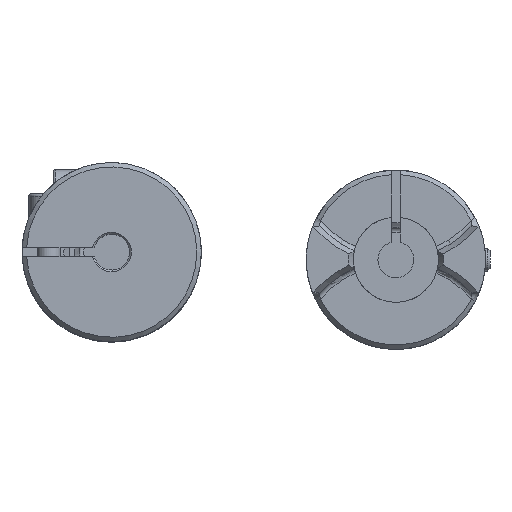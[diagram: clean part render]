
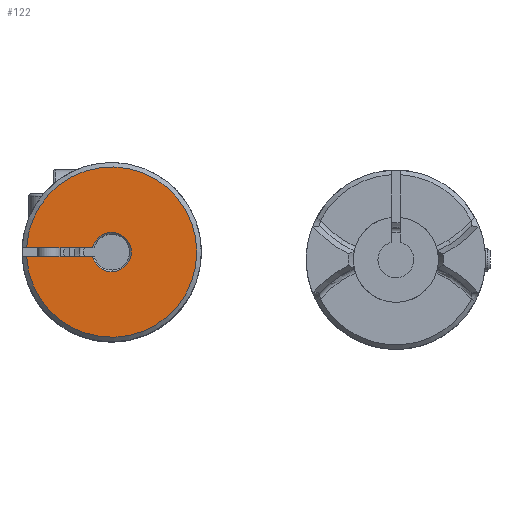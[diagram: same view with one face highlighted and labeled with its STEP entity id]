
A CAD part, top view. The second image highlights one B-rep face of the part: STEP entity #122.
In plain terms, the highlighted planar face has unit normal (0, 0, 1) as drawn and (0, 0, -1) by its records, which use the part's own axes.
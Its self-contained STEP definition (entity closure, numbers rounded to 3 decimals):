
#122 = ADVANCED_FACE( 'NONE', ( #256 ), #257, .F. );
#256 = FACE_OUTER_BOUND( '', #417, .T. );
#257 = PLANE( '', #418 );
#417 = EDGE_LOOP( '', ( #887, #888, #889, #890 ) );
#418 = AXIS2_PLACEMENT_3D( '', #891, #892, #893 );
#887 = ORIENTED_EDGE( '', *, *, #1330, .F. );
#888 = ORIENTED_EDGE( '', *, *, #1316, .T. );
#889 = ORIENTED_EDGE( '', *, *, #1369, .T. );
#890 = ORIENTED_EDGE( '', *, *, #1370, .T. );
#891 = CARTESIAN_POINT( '', ( 0., 0., 0. ) );
#892 = DIRECTION( '', ( 0., 0., 1. ) );
#893 = DIRECTION( '', ( 1., 0., 0. ) );
#1316 = EDGE_CURVE( 'NONE', #1651, #1652, #1653, .T. );
#1330 = EDGE_CURVE( 'NONE', #1651, #1676, #1677, .F. );
#1369 = EDGE_CURVE( 'NONE', #1652, #1740, #1741, .T. );
#1370 = EDGE_CURVE( 'NONE', #1740, #1676, #1742, .F. );
#1651 = VERTEX_POINT( 'NONE', #2441 );
#1652 = VERTEX_POINT( 'NONE', #2442 );
#1653 = CIRCLE( '', #2443, 2.2 );
#1676 = VERTEX_POINT( 'NONE', #2481 );
#1677 = LINE( '', #2482, #2483 );
#1740 = VERTEX_POINT( 'NONE', #2644 );
#1741 = LINE( '', #2645, #2646 );
#1742 = CIRCLE( '', #2647, 9.5 );
#2441 = CARTESIAN_POINT( '', ( -0.5, 2.142, 0. ) );
#2442 = CARTESIAN_POINT( '', ( 0.5, 2.142, 0. ) );
#2443 = AXIS2_PLACEMENT_3D( '', #2978, #2979, #2980 );
#2481 = CARTESIAN_POINT( '', ( -0.5, 9.487, 0. ) );
#2482 = CARTESIAN_POINT( '', ( -0.5, 0., 0. ) );
#2483 = VECTOR( '', #2993, 1000. );
#2644 = CARTESIAN_POINT( '', ( 0.5, 9.487, 0. ) );
#2645 = CARTESIAN_POINT( '', ( 0.5, 0., 0. ) );
#2646 = VECTOR( '', #3042, 1000. );
#2647 = AXIS2_PLACEMENT_3D( '', #3043, #3044, #3045 );
#2978 = CARTESIAN_POINT( '', ( 0., 0., 0. ) );
#2979 = DIRECTION( '', ( 0., 0., 1. ) );
#2980 = DIRECTION( '', ( 1., 0., 0. ) );
#2993 = DIRECTION( '', ( 0., -1., 0. ) );
#3042 = DIRECTION( '', ( 0., 1., 0. ) );
#3043 = CARTESIAN_POINT( '', ( 0., 0., 0. ) );
#3044 = DIRECTION( '', ( 0., 0., 1. ) );
#3045 = DIRECTION( '', ( 1., 0., 0. ) );
